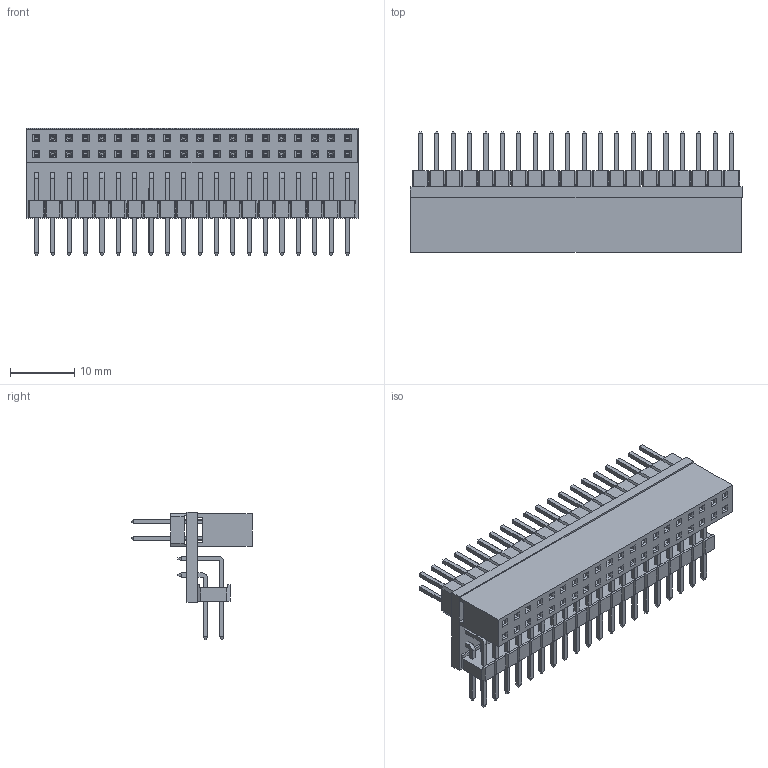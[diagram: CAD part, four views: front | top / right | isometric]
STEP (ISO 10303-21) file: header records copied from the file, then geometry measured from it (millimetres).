
FILE_DESCRIPTION((' '),'2;1');
FILE_NAME( 'ICY-BOX - IB-RPA101 (60522).stp', '2023-08-12T20:34:23', (' '), ('--- Datakit www.datakit.com---'), ' Datakit CrossCadWare V2023.3 Jul 7 2023', 'DATAKIT 2023 (c)', ' ');
FILE_SCHEMA(('AP242_MANAGED_MODEL_BASED_3D_ENGINEERING_MIM_LF { 1 0 10303 442 1 1 4 }'));
Length unit declared in the file: millimetre
Products named in the file (5): 61304021821 (rev1); 61304021121 (rev1); 61304021021 (rev1); PCB - IB-RPA101; ICY-BOX - IB-RPA101 (60522)
Assembly tree (4 placements, depth 2):
  ICY-BOX - IB-RPA101 (60522)
    61304021821 (rev1)
    61304021121 (rev1)
    61304021021 (rev1)
    PCB - IB-RPA101
Bounding box: 51.5 x 18.64 x 19.79 mm (x, y, z)
Volume: 4408.5 mm3; surface area: 11055.1 mm2
Topology: 124 solids, 124 shells, 3664 faces, 9288 edges, 5872 vertices
Faces by surface type: plane 3184, cylinder 320, torus 80, bspline 80
Entity records: 111644 total; most frequent: CARTESIAN_POINT 22193, ORIENTED_EDGE 18256, DIRECTION 17034, EDGE_CURVE 9128, VECTOR 8088, LINE 8088, VERTEX_POINT 5792, AXIS2_PLACEMENT_3D 4473
